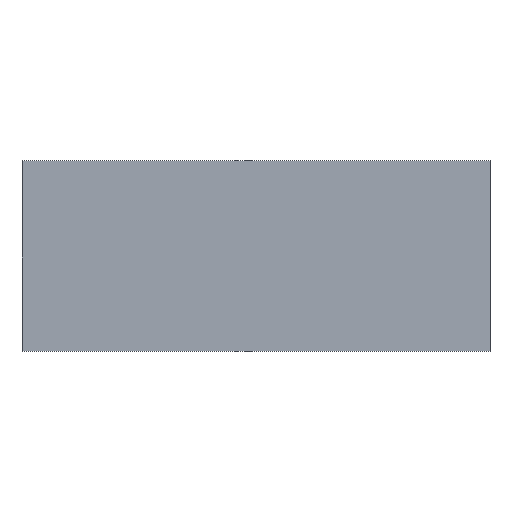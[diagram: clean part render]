
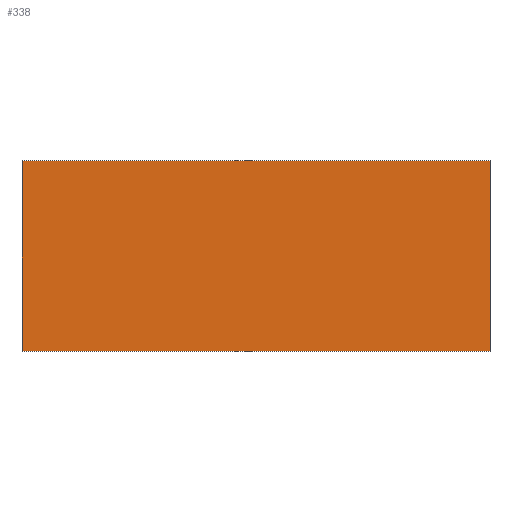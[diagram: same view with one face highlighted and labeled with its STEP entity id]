
A CAD part, top view. The second image highlights one B-rep face of the part: STEP entity #338.
In plain terms, the highlighted planar face has unit normal (0, 0, 1).
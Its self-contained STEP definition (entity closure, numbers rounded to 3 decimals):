
#24 = VERTEX_POINT('',#25);
#25 = CARTESIAN_POINT('',(-60.5,-19.625,26.075));
#32 = PLANE('',#33);
#33 = AXIS2_PLACEMENT_3D('',#34,#35,#36);
#34 = CARTESIAN_POINT('',(-60.5,-19.625,24.475));
#35 = DIRECTION('',(1.,0.,0.));
#36 = DIRECTION('',(0.,0.,1.));
#44 = PLANE('',#45);
#45 = AXIS2_PLACEMENT_3D('',#46,#47,#48);
#46 = CARTESIAN_POINT('',(-60.5,-19.625,24.475));
#47 = DIRECTION('',(0.,1.,0.));
#48 = DIRECTION('',(0.,0.,1.));
#85 = VERTEX_POINT('',#86);
#86 = CARTESIAN_POINT('',(-60.5,31.275,26.075));
#100 = PLANE('',#101);
#101 = AXIS2_PLACEMENT_3D('',#102,#103,#104);
#102 = CARTESIAN_POINT('',(-60.5,31.275,24.475));
#103 = DIRECTION('',(0.,1.,0.));
#104 = DIRECTION('',(0.,0.,1.));
#112 = EDGE_CURVE('',#24,#85,#113,.T.);
#113 = SURFACE_CURVE('',#114,(#118,#125),.PCURVE_S1.);
#114 = LINE('',#115,#116);
#115 = CARTESIAN_POINT('',(-60.5,-19.625,26.075));
#116 = VECTOR('',#117,1.);
#117 = DIRECTION('',(0.,1.,0.));
#118 = PCURVE('',#32,#119);
#119 = DEFINITIONAL_REPRESENTATION('',(#120),#124);
#120 = LINE('',#121,#122);
#121 = CARTESIAN_POINT('',(1.6,0.));
#122 = VECTOR('',#123,1.);
#123 = DIRECTION('',(0.,-1.));
#124 = ( GEOMETRIC_REPRESENTATION_CONTEXT(2) 
PARAMETRIC_REPRESENTATION_CONTEXT() REPRESENTATION_CONTEXT('2D SPACE',''
  ) );
#125 = PCURVE('',#126,#131);
#126 = PLANE('',#127);
#127 = AXIS2_PLACEMENT_3D('',#128,#129,#130);
#128 = CARTESIAN_POINT('',(-60.5,-19.625,26.075));
#129 = DIRECTION('',(0.,0.,1.));
#130 = DIRECTION('',(1.,0.,0.));
#131 = DEFINITIONAL_REPRESENTATION('',(#132),#136);
#132 = LINE('',#133,#134);
#133 = CARTESIAN_POINT('',(0.,0.));
#134 = VECTOR('',#135,1.);
#135 = DIRECTION('',(0.,1.));
#136 = ( GEOMETRIC_REPRESENTATION_CONTEXT(2) 
PARAMETRIC_REPRESENTATION_CONTEXT() REPRESENTATION_CONTEXT('2D SPACE',''
  ) );
#144 = VERTEX_POINT('',#145);
#145 = CARTESIAN_POINT('',(64.5,-19.625,26.075));
#152 = PLANE('',#153);
#153 = AXIS2_PLACEMENT_3D('',#154,#155,#156);
#154 = CARTESIAN_POINT('',(64.5,-19.625,24.475));
#155 = DIRECTION('',(1.,0.,0.));
#156 = DIRECTION('',(0.,0.,1.));
#195 = VERTEX_POINT('',#196);
#196 = CARTESIAN_POINT('',(64.5,31.275,26.075));
#217 = EDGE_CURVE('',#144,#195,#218,.T.);
#218 = SURFACE_CURVE('',#219,(#223,#230),.PCURVE_S1.);
#219 = LINE('',#220,#221);
#220 = CARTESIAN_POINT('',(64.5,-19.625,26.075));
#221 = VECTOR('',#222,1.);
#222 = DIRECTION('',(0.,1.,0.));
#223 = PCURVE('',#152,#224);
#224 = DEFINITIONAL_REPRESENTATION('',(#225),#229);
#225 = LINE('',#226,#227);
#226 = CARTESIAN_POINT('',(1.6,0.));
#227 = VECTOR('',#228,1.);
#228 = DIRECTION('',(0.,-1.));
#229 = ( GEOMETRIC_REPRESENTATION_CONTEXT(2) 
PARAMETRIC_REPRESENTATION_CONTEXT() REPRESENTATION_CONTEXT('2D SPACE',''
  ) );
#230 = PCURVE('',#126,#231);
#231 = DEFINITIONAL_REPRESENTATION('',(#232),#236);
#232 = LINE('',#233,#234);
#233 = CARTESIAN_POINT('',(125.,0.));
#234 = VECTOR('',#235,1.);
#235 = DIRECTION('',(0.,1.));
#236 = ( GEOMETRIC_REPRESENTATION_CONTEXT(2) 
PARAMETRIC_REPRESENTATION_CONTEXT() REPRESENTATION_CONTEXT('2D SPACE',''
  ) );
#263 = EDGE_CURVE('',#24,#144,#264,.T.);
#264 = SURFACE_CURVE('',#265,(#269,#276),.PCURVE_S1.);
#265 = LINE('',#266,#267);
#266 = CARTESIAN_POINT('',(-60.5,-19.625,26.075));
#267 = VECTOR('',#268,1.);
#268 = DIRECTION('',(1.,0.,0.));
#269 = PCURVE('',#44,#270);
#270 = DEFINITIONAL_REPRESENTATION('',(#271),#275);
#271 = LINE('',#272,#273);
#272 = CARTESIAN_POINT('',(1.6,0.));
#273 = VECTOR('',#274,1.);
#274 = DIRECTION('',(0.,1.));
#275 = ( GEOMETRIC_REPRESENTATION_CONTEXT(2) 
PARAMETRIC_REPRESENTATION_CONTEXT() REPRESENTATION_CONTEXT('2D SPACE',''
  ) );
#276 = PCURVE('',#126,#277);
#277 = DEFINITIONAL_REPRESENTATION('',(#278),#282);
#278 = LINE('',#279,#280);
#279 = CARTESIAN_POINT('',(0.,0.));
#280 = VECTOR('',#281,1.);
#281 = DIRECTION('',(1.,0.));
#282 = ( GEOMETRIC_REPRESENTATION_CONTEXT(2) 
PARAMETRIC_REPRESENTATION_CONTEXT() REPRESENTATION_CONTEXT('2D SPACE',''
  ) );
#310 = EDGE_CURVE('',#85,#195,#311,.T.);
#311 = SURFACE_CURVE('',#312,(#316,#323),.PCURVE_S1.);
#312 = LINE('',#313,#314);
#313 = CARTESIAN_POINT('',(-60.5,31.275,26.075));
#314 = VECTOR('',#315,1.);
#315 = DIRECTION('',(1.,0.,0.));
#316 = PCURVE('',#100,#317);
#317 = DEFINITIONAL_REPRESENTATION('',(#318),#322);
#318 = LINE('',#319,#320);
#319 = CARTESIAN_POINT('',(1.6,0.));
#320 = VECTOR('',#321,1.);
#321 = DIRECTION('',(0.,1.));
#322 = ( GEOMETRIC_REPRESENTATION_CONTEXT(2) 
PARAMETRIC_REPRESENTATION_CONTEXT() REPRESENTATION_CONTEXT('2D SPACE',''
  ) );
#323 = PCURVE('',#126,#324);
#324 = DEFINITIONAL_REPRESENTATION('',(#325),#329);
#325 = LINE('',#326,#327);
#326 = CARTESIAN_POINT('',(0.,50.9));
#327 = VECTOR('',#328,1.);
#328 = DIRECTION('',(1.,0.));
#329 = ( GEOMETRIC_REPRESENTATION_CONTEXT(2) 
PARAMETRIC_REPRESENTATION_CONTEXT() REPRESENTATION_CONTEXT('2D SPACE',''
  ) );
#338 = ADVANCED_FACE('',(#339),#126,.T.);
#339 = FACE_BOUND('',#340,.T.);
#340 = EDGE_LOOP('',(#341,#342,#343,#344));
#341 = ORIENTED_EDGE('',*,*,#112,.F.);
#342 = ORIENTED_EDGE('',*,*,#263,.T.);
#343 = ORIENTED_EDGE('',*,*,#217,.T.);
#344 = ORIENTED_EDGE('',*,*,#310,.F.);
